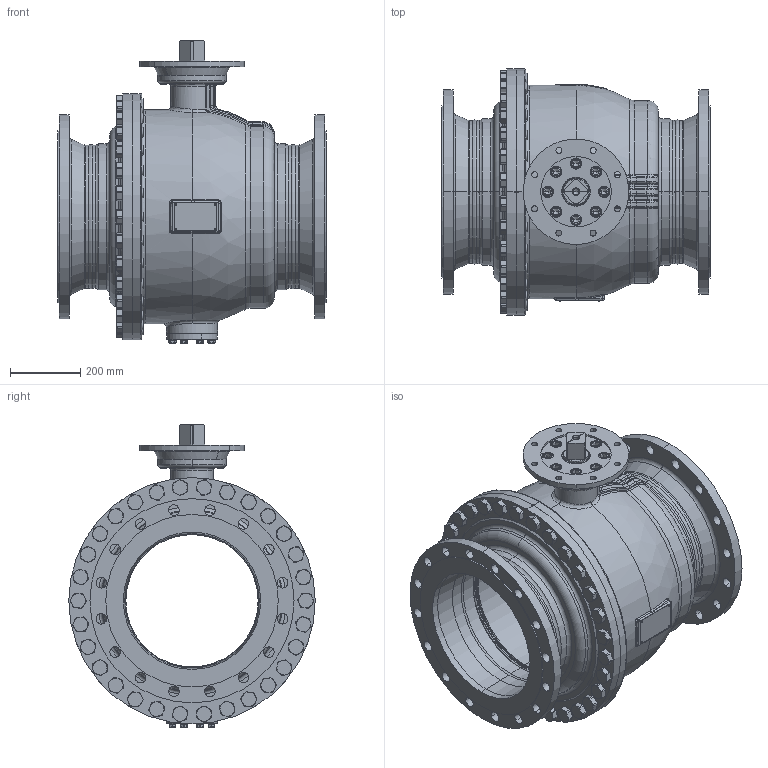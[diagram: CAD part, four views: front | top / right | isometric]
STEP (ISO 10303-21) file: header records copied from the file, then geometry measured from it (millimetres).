
FILE_DESCRIPTION((''),'2;1');
FILE_NAME('KHI-F_400_PN016-F25-4_SW0001','2026-02-05T16:08:45',('fischerkl'),('KLINGER'),'CREO PARAMETRIC BY PTC INC, 2023014','CREO PARAMETRIC BY PTC INC, 2023014','');
FILE_SCHEMA(('CONFIG_CONTROL_DESIGN'));
Products named in the file (1): KHI-F_400_PN016-F25-4_SW0001
Bounding box: 762 x 700 x 858.3 mm (x, y, z)
Volume: 52866793.3 mm3; surface area: 6766926.4 mm2
Topology: 1 solids, 4 shells, 3548 faces, 8934 edges, 5577 vertices
Faces by surface type: plane 1754, cylinder 849, cone 508, torus 307, bspline 99, sphere 31
Entity records: 151905 total; most frequent: CARTESIAN_POINT 67490, ORIENTED_EDGE 17816, DIRECTION 17489, EDGE_CURVE 8908, AXIS2_PLACEMENT_3D 6715, VERTEX_POINT 5577, VECTOR 4059, LINE 4059
